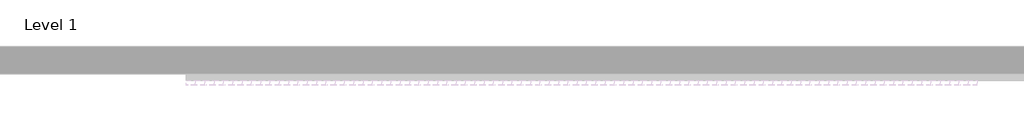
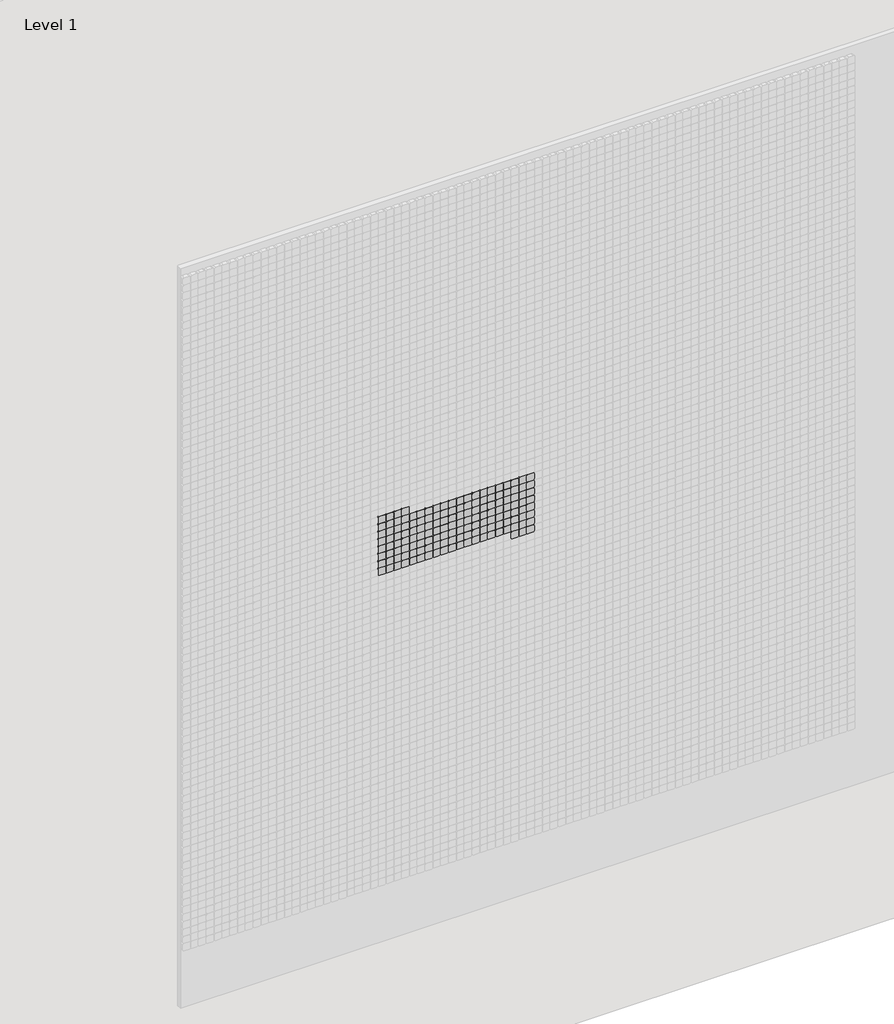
# One storey, part 27 of 71: 147 proxies.
"""IFC4 building model written with IfcOpenShell, lengths in millimetres."""

from ifc_helpers import new_model, si_unit, origin, place, context, project, spatial, transform, mapped, element, save
from components import generic_models_afde289c

model = new_model("IFC4")

# Units and contexts
model_context = context("Model", 3, world=origin())
ifc_project = project(units=[si_unit("LENGTHUNIT", "METRE", prefix="MILLI")], contexts=[model_context])

# Site, building, storey
site = spatial("IfcSite", under=ifc_project)
building = spatial("IfcBuilding", under=site)
storey = spatial("IfcBuildingStorey", under=building, Name="Level 1", Elevation=0.0)

# Proxies
placement = place(None, origin())
generic_models_shape = generic_models_afde289c(model_context)
element("IfcBuildingElementProxy", 1, Name="Pixel_M : Pixel_M", ObjectType="Pixel_M : Pixel_M", at=placement, inside=storey, context=model_context, shape_type="MappedRepresentation", body=[
    mapped(generic_models_shape, transform((6162.4280941, -75.0, 3866.3566215), x_axis=(1.0, 0.0, 0.0), y_axis=(0.0, 0.0, 1.0), z_axis=(0.0, -1.0, 0.0))),
])
element("IfcBuildingElementProxy", 2, Name="Pixel_M : Pixel_M", ObjectType="Pixel_M : Pixel_M", at=placement, inside=storey, context=model_context, shape_type="MappedRepresentation", body=[
    mapped(generic_models_shape, transform((6112.4280941, -75.0, 3866.3566215), x_axis=(1.0, 0.0, 0.0), y_axis=(0.0, 0.0, 1.0), z_axis=(0.0, -1.0, 0.0))),
])
element("IfcBuildingElementProxy", 3, Name="Pixel_M : Pixel_M", ObjectType="Pixel_M : Pixel_M", at=placement, inside=storey, context=model_context, shape_type="MappedRepresentation", body=[
    mapped(generic_models_shape, transform((6062.4280941, -75.0, 3866.3566215), x_axis=(1.0, 0.0, 0.0), y_axis=(0.0, 0.0, 1.0), z_axis=(0.0, -1.0, 0.0))),
])
element("IfcBuildingElementProxy", 4, Name="Pixel_M : Pixel_M", ObjectType="Pixel_M : Pixel_M", at=placement, inside=storey, context=model_context, shape_type="MappedRepresentation", body=[
    mapped(generic_models_shape, transform((6012.4280941, -75.0, 3866.3566215), x_axis=(1.0, 0.0, 0.0), y_axis=(0.0, 0.0, 1.0), z_axis=(0.0, -1.0, 0.0))),
])
element("IfcBuildingElementProxy", 5, Name="Pixel_M : Pixel_M", ObjectType="Pixel_M : Pixel_M", at=placement, inside=storey, context=model_context, shape_type="MappedRepresentation", body=[
    mapped(generic_models_shape, transform((6962.4280941, -75.0, 3816.3566215), x_axis=(1.0, 0.0, 0.0), y_axis=(0.0, 0.0, 1.0), z_axis=(0.0, -1.0, 0.0))),
])
element("IfcBuildingElementProxy", 6, Name="Pixel_M : Pixel_M", ObjectType="Pixel_M : Pixel_M", at=placement, inside=storey, context=model_context, shape_type="MappedRepresentation", body=[
    mapped(generic_models_shape, transform((6912.4280941, -75.0, 3816.3566215), x_axis=(1.0, 0.0, 0.0), y_axis=(0.0, 0.0, 1.0), z_axis=(0.0, -1.0, 0.0))),
])
element("IfcBuildingElementProxy", 7, Name="Pixel_M : Pixel_M", ObjectType="Pixel_M : Pixel_M", at=placement, inside=storey, context=model_context, shape_type="MappedRepresentation", body=[
    mapped(generic_models_shape, transform((6862.4280941, -75.0, 3816.3566215), x_axis=(1.0, 0.0, 0.0), y_axis=(0.0, 0.0, 1.0), z_axis=(0.0, -1.0, 0.0))),
])
element("IfcBuildingElementProxy", 8, Name="Pixel_M : Pixel_M", ObjectType="Pixel_M : Pixel_M", at=placement, inside=storey, context=model_context, shape_type="MappedRepresentation", body=[
    mapped(generic_models_shape, transform((6812.4280941, -75.0, 3816.3566215), x_axis=(1.0, 0.0, 0.0), y_axis=(0.0, 0.0, 1.0), z_axis=(0.0, -1.0, 0.0))),
])
element("IfcBuildingElementProxy", 9, Name="Pixel_M : Pixel_M", ObjectType="Pixel_M : Pixel_M", at=placement, inside=storey, context=model_context, shape_type="MappedRepresentation", body=[
    mapped(generic_models_shape, transform((6762.4280941, -75.0, 3816.3566215), x_axis=(1.0, 0.0, 0.0), y_axis=(0.0, 0.0, 1.0), z_axis=(0.0, -1.0, 0.0))),
])
element("IfcBuildingElementProxy", 10, Name="Pixel_M : Pixel_M", ObjectType="Pixel_M : Pixel_M", at=placement, inside=storey, context=model_context, shape_type="MappedRepresentation", body=[
    mapped(generic_models_shape, transform((6712.4280941, -75.0, 3816.3566215), x_axis=(1.0, 0.0, 0.0), y_axis=(0.0, 0.0, 1.0), z_axis=(0.0, -1.0, 0.0))),
])
element("IfcBuildingElementProxy", 11, Name="Pixel_M : Pixel_M", ObjectType="Pixel_M : Pixel_M", at=placement, inside=storey, context=model_context, shape_type="MappedRepresentation", body=[
    mapped(generic_models_shape, transform((6662.4280941, -75.0, 3816.3566215), x_axis=(1.0, 0.0, 0.0), y_axis=(0.0, 0.0, 1.0), z_axis=(0.0, -1.0, 0.0))),
])
element("IfcBuildingElementProxy", 12, Name="Pixel_M : Pixel_M", ObjectType="Pixel_M : Pixel_M", at=placement, inside=storey, context=model_context, shape_type="MappedRepresentation", body=[
    mapped(generic_models_shape, transform((6612.4280941, -75.0, 3816.3566215), x_axis=(1.0, 0.0, 0.0), y_axis=(0.0, 0.0, 1.0), z_axis=(0.0, -1.0, 0.0))),
])
element("IfcBuildingElementProxy", 13, Name="Pixel_M : Pixel_M", ObjectType="Pixel_M : Pixel_M", at=placement, inside=storey, context=model_context, shape_type="MappedRepresentation", body=[
    mapped(generic_models_shape, transform((6562.4280941, -75.0, 3816.3566215), x_axis=(1.0, 0.0, 0.0), y_axis=(0.0, 0.0, 1.0), z_axis=(0.0, -1.0, 0.0))),
])
element("IfcBuildingElementProxy", 14, Name="Pixel_M : Pixel_M", ObjectType="Pixel_M : Pixel_M", at=placement, inside=storey, context=model_context, shape_type="MappedRepresentation", body=[
    mapped(generic_models_shape, transform((6512.4280941, -75.0, 3816.3566215), x_axis=(1.0, 0.0, 0.0), y_axis=(0.0, 0.0, 1.0), z_axis=(0.0, -1.0, 0.0))),
])
element("IfcBuildingElementProxy", 15, Name="Pixel_M : Pixel_M", ObjectType="Pixel_M : Pixel_M", at=placement, inside=storey, context=model_context, shape_type="MappedRepresentation", body=[
    mapped(generic_models_shape, transform((6462.4280941, -75.0, 3816.3566215), x_axis=(1.0, 0.0, 0.0), y_axis=(0.0, 0.0, 1.0), z_axis=(0.0, -1.0, 0.0))),
])
element("IfcBuildingElementProxy", 16, Name="Pixel_M : Pixel_M", ObjectType="Pixel_M : Pixel_M", at=placement, inside=storey, context=model_context, shape_type="MappedRepresentation", body=[
    mapped(generic_models_shape, transform((6412.4280941, -75.0, 3816.3566215), x_axis=(1.0, 0.0, 0.0), y_axis=(0.0, 0.0, 1.0), z_axis=(0.0, -1.0, 0.0))),
])
element("IfcBuildingElementProxy", 17, Name="Pixel_M : Pixel_M", ObjectType="Pixel_M : Pixel_M", at=placement, inside=storey, context=model_context, shape_type="MappedRepresentation", body=[
    mapped(generic_models_shape, transform((6362.4280941, -75.0, 3816.3566215), x_axis=(1.0, 0.0, 0.0), y_axis=(0.0, 0.0, 1.0), z_axis=(0.0, -1.0, 0.0))),
])
element("IfcBuildingElementProxy", 18, Name="Pixel_M : Pixel_M", ObjectType="Pixel_M : Pixel_M", at=placement, inside=storey, context=model_context, shape_type="MappedRepresentation", body=[
    mapped(generic_models_shape, transform((6312.4280941, -75.0, 3816.3566215), x_axis=(1.0, 0.0, 0.0), y_axis=(0.0, 0.0, 1.0), z_axis=(0.0, -1.0, 0.0))),
])
element("IfcBuildingElementProxy", 19, Name="Pixel_M : Pixel_M", ObjectType="Pixel_M : Pixel_M", at=placement, inside=storey, context=model_context, shape_type="MappedRepresentation", body=[
    mapped(generic_models_shape, transform((6262.4280941, -75.0, 3816.3566215), x_axis=(1.0, 0.0, 0.0), y_axis=(0.0, 0.0, 1.0), z_axis=(0.0, -1.0, 0.0))),
])
element("IfcBuildingElementProxy", 20, Name="Pixel_M : Pixel_M", ObjectType="Pixel_M : Pixel_M", at=placement, inside=storey, context=model_context, shape_type="MappedRepresentation", body=[
    mapped(generic_models_shape, transform((6212.4280941, -75.0, 3816.3566215), x_axis=(1.0, 0.0, 0.0), y_axis=(0.0, 0.0, 1.0), z_axis=(0.0, -1.0, 0.0))),
])
element("IfcBuildingElementProxy", 21, Name="Pixel_M : Pixel_M", ObjectType="Pixel_M : Pixel_M", at=placement, inside=storey, context=model_context, shape_type="MappedRepresentation", body=[
    mapped(generic_models_shape, transform((6162.4280941, -75.0, 3816.3566215), x_axis=(1.0, 0.0, 0.0), y_axis=(0.0, 0.0, 1.0), z_axis=(0.0, -1.0, 0.0))),
])
element("IfcBuildingElementProxy", 22, Name="Pixel_M : Pixel_M", ObjectType="Pixel_M : Pixel_M", at=placement, inside=storey, context=model_context, shape_type="MappedRepresentation", body=[
    mapped(generic_models_shape, transform((6112.4280941, -75.0, 3816.3566215), x_axis=(1.0, 0.0, 0.0), y_axis=(0.0, 0.0, 1.0), z_axis=(0.0, -1.0, 0.0))),
])
element("IfcBuildingElementProxy", 23, Name="Pixel_M : Pixel_M", ObjectType="Pixel_M : Pixel_M", at=placement, inside=storey, context=model_context, shape_type="MappedRepresentation", body=[
    mapped(generic_models_shape, transform((6062.4280941, -75.0, 3816.3566215), x_axis=(1.0, 0.0, 0.0), y_axis=(0.0, 0.0, 1.0), z_axis=(0.0, -1.0, 0.0))),
])
element("IfcBuildingElementProxy", 24, Name="Pixel_M : Pixel_M", ObjectType="Pixel_M : Pixel_M", at=placement, inside=storey, context=model_context, shape_type="MappedRepresentation", body=[
    mapped(generic_models_shape, transform((6012.4280941, -75.0, 3816.3566215), x_axis=(1.0, 0.0, 0.0), y_axis=(0.0, 0.0, 1.0), z_axis=(0.0, -1.0, 0.0))),
])
element("IfcBuildingElementProxy", 25, Name="Pixel_M : Pixel_M", ObjectType="Pixel_M : Pixel_M", at=placement, inside=storey, context=model_context, shape_type="MappedRepresentation", body=[
    mapped(generic_models_shape, transform((6962.4280941, -75.0, 3766.3566215), x_axis=(1.0, 0.0, 0.0), y_axis=(0.0, 0.0, 1.0), z_axis=(0.0, -1.0, 0.0))),
])
element("IfcBuildingElementProxy", 26, Name="Pixel_M : Pixel_M", ObjectType="Pixel_M : Pixel_M", at=placement, inside=storey, context=model_context, shape_type="MappedRepresentation", body=[
    mapped(generic_models_shape, transform((6912.4280941, -75.0, 3766.3566215), x_axis=(1.0, 0.0, 0.0), y_axis=(0.0, 0.0, 1.0), z_axis=(0.0, -1.0, 0.0))),
])
element("IfcBuildingElementProxy", 27, Name="Pixel_M : Pixel_M", ObjectType="Pixel_M : Pixel_M", at=placement, inside=storey, context=model_context, shape_type="MappedRepresentation", body=[
    mapped(generic_models_shape, transform((6862.4280941, -75.0, 3766.3566215), x_axis=(1.0, 0.0, 0.0), y_axis=(0.0, 0.0, 1.0), z_axis=(0.0, -1.0, 0.0))),
])
element("IfcBuildingElementProxy", 28, Name="Pixel_M : Pixel_M", ObjectType="Pixel_M : Pixel_M", at=placement, inside=storey, context=model_context, shape_type="MappedRepresentation", body=[
    mapped(generic_models_shape, transform((6812.4280941, -75.0, 3766.3566215), x_axis=(1.0, 0.0, 0.0), y_axis=(0.0, 0.0, 1.0), z_axis=(0.0, -1.0, 0.0))),
])
element("IfcBuildingElementProxy", 29, Name="Pixel_M : Pixel_M", ObjectType="Pixel_M : Pixel_M", at=placement, inside=storey, context=model_context, shape_type="MappedRepresentation", body=[
    mapped(generic_models_shape, transform((6762.4280941, -75.0, 3766.3566215), x_axis=(1.0, 0.0, 0.0), y_axis=(0.0, 0.0, 1.0), z_axis=(0.0, -1.0, 0.0))),
])
element("IfcBuildingElementProxy", 30, Name="Pixel_M : Pixel_M", ObjectType="Pixel_M : Pixel_M", at=placement, inside=storey, context=model_context, shape_type="MappedRepresentation", body=[
    mapped(generic_models_shape, transform((6712.4280941, -75.0, 3766.3566215), x_axis=(1.0, 0.0, 0.0), y_axis=(0.0, 0.0, 1.0), z_axis=(0.0, -1.0, 0.0))),
])
element("IfcBuildingElementProxy", 31, Name="Pixel_M : Pixel_M", ObjectType="Pixel_M : Pixel_M", at=placement, inside=storey, context=model_context, shape_type="MappedRepresentation", body=[
    mapped(generic_models_shape, transform((6662.4280941, -75.0, 3766.3566215), x_axis=(1.0, 0.0, 0.0), y_axis=(0.0, 0.0, 1.0), z_axis=(0.0, -1.0, 0.0))),
])
element("IfcBuildingElementProxy", 32, Name="Pixel_M : Pixel_M", ObjectType="Pixel_M : Pixel_M", at=placement, inside=storey, context=model_context, shape_type="MappedRepresentation", body=[
    mapped(generic_models_shape, transform((6612.4280941, -75.0, 3766.3566215), x_axis=(1.0, 0.0, 0.0), y_axis=(0.0, 0.0, 1.0), z_axis=(0.0, -1.0, 0.0))),
])
element("IfcBuildingElementProxy", 33, Name="Pixel_M : Pixel_M", ObjectType="Pixel_M : Pixel_M", at=placement, inside=storey, context=model_context, shape_type="MappedRepresentation", body=[
    mapped(generic_models_shape, transform((6562.4280941, -75.0, 3766.3566215), x_axis=(1.0, 0.0, 0.0), y_axis=(0.0, 0.0, 1.0), z_axis=(0.0, -1.0, 0.0))),
])
element("IfcBuildingElementProxy", 34, Name="Pixel_M : Pixel_M", ObjectType="Pixel_M : Pixel_M", at=placement, inside=storey, context=model_context, shape_type="MappedRepresentation", body=[
    mapped(generic_models_shape, transform((6512.4280941, -75.0, 3766.3566215), x_axis=(1.0, 0.0, 0.0), y_axis=(0.0, 0.0, 1.0), z_axis=(0.0, -1.0, 0.0))),
])
element("IfcBuildingElementProxy", 35, Name="Pixel_M : Pixel_M", ObjectType="Pixel_M : Pixel_M", at=placement, inside=storey, context=model_context, shape_type="MappedRepresentation", body=[
    mapped(generic_models_shape, transform((6462.4280941, -75.0, 3766.3566215), x_axis=(1.0, 0.0, 0.0), y_axis=(0.0, 0.0, 1.0), z_axis=(0.0, -1.0, 0.0))),
])
element("IfcBuildingElementProxy", 36, Name="Pixel_M : Pixel_M", ObjectType="Pixel_M : Pixel_M", at=placement, inside=storey, context=model_context, shape_type="MappedRepresentation", body=[
    mapped(generic_models_shape, transform((6412.4280941, -75.0, 3766.3566215), x_axis=(1.0, 0.0, 0.0), y_axis=(0.0, 0.0, 1.0), z_axis=(0.0, -1.0, 0.0))),
])
element("IfcBuildingElementProxy", 37, Name="Pixel_M : Pixel_M", ObjectType="Pixel_M : Pixel_M", at=placement, inside=storey, context=model_context, shape_type="MappedRepresentation", body=[
    mapped(generic_models_shape, transform((6362.4280941, -75.0, 3766.3566215), x_axis=(1.0, 0.0, 0.0), y_axis=(0.0, 0.0, 1.0), z_axis=(0.0, -1.0, 0.0))),
])
element("IfcBuildingElementProxy", 38, Name="Pixel_M : Pixel_M", ObjectType="Pixel_M : Pixel_M", at=placement, inside=storey, context=model_context, shape_type="MappedRepresentation", body=[
    mapped(generic_models_shape, transform((6312.4280941, -75.0, 3766.3566215), x_axis=(1.0, 0.0, 0.0), y_axis=(0.0, 0.0, 1.0), z_axis=(0.0, -1.0, 0.0))),
])
element("IfcBuildingElementProxy", 39, Name="Pixel_M : Pixel_M", ObjectType="Pixel_M : Pixel_M", at=placement, inside=storey, context=model_context, shape_type="MappedRepresentation", body=[
    mapped(generic_models_shape, transform((6262.4280941, -75.0, 3766.3566215), x_axis=(1.0, 0.0, 0.0), y_axis=(0.0, 0.0, 1.0), z_axis=(0.0, -1.0, 0.0))),
])
element("IfcBuildingElementProxy", 40, Name="Pixel_M : Pixel_M", ObjectType="Pixel_M : Pixel_M", at=placement, inside=storey, context=model_context, shape_type="MappedRepresentation", body=[
    mapped(generic_models_shape, transform((6212.4280941, -75.0, 3766.3566215), x_axis=(1.0, 0.0, 0.0), y_axis=(0.0, 0.0, 1.0), z_axis=(0.0, -1.0, 0.0))),
])
element("IfcBuildingElementProxy", 41, Name="Pixel_M : Pixel_M", ObjectType="Pixel_M : Pixel_M", at=placement, inside=storey, context=model_context, shape_type="MappedRepresentation", body=[
    mapped(generic_models_shape, transform((6162.4280941, -75.0, 3766.3566215), x_axis=(1.0, 0.0, 0.0), y_axis=(0.0, 0.0, 1.0), z_axis=(0.0, -1.0, 0.0))),
])
element("IfcBuildingElementProxy", 42, Name="Pixel_M : Pixel_M", ObjectType="Pixel_M : Pixel_M", at=placement, inside=storey, context=model_context, shape_type="MappedRepresentation", body=[
    mapped(generic_models_shape, transform((6112.4280941, -75.0, 3766.3566215), x_axis=(1.0, 0.0, 0.0), y_axis=(0.0, 0.0, 1.0), z_axis=(0.0, -1.0, 0.0))),
])
element("IfcBuildingElementProxy", 43, Name="Pixel_M : Pixel_M", ObjectType="Pixel_M : Pixel_M", at=placement, inside=storey, context=model_context, shape_type="MappedRepresentation", body=[
    mapped(generic_models_shape, transform((6062.4280941, -75.0, 3766.3566215), x_axis=(1.0, 0.0, 0.0), y_axis=(0.0, 0.0, 1.0), z_axis=(0.0, -1.0, 0.0))),
])
element("IfcBuildingElementProxy", 44, Name="Pixel_M : Pixel_M", ObjectType="Pixel_M : Pixel_M", at=placement, inside=storey, context=model_context, shape_type="MappedRepresentation", body=[
    mapped(generic_models_shape, transform((6012.4280941, -75.0, 3766.3566215), x_axis=(1.0, 0.0, 0.0), y_axis=(0.0, 0.0, 1.0), z_axis=(0.0, -1.0, 0.0))),
])
element("IfcBuildingElementProxy", 45, Name="Pixel_M : Pixel_M", ObjectType="Pixel_M : Pixel_M", at=placement, inside=storey, context=model_context, shape_type="MappedRepresentation", body=[
    mapped(generic_models_shape, transform((6962.4280941, -75.0, 3716.3566215), x_axis=(1.0, 0.0, 0.0), y_axis=(0.0, 0.0, 1.0), z_axis=(0.0, -1.0, 0.0))),
])
element("IfcBuildingElementProxy", 46, Name="Pixel_M : Pixel_M", ObjectType="Pixel_M : Pixel_M", at=placement, inside=storey, context=model_context, shape_type="MappedRepresentation", body=[
    mapped(generic_models_shape, transform((6912.4280941, -75.0, 3716.3566215), x_axis=(1.0, 0.0, 0.0), y_axis=(0.0, 0.0, 1.0), z_axis=(0.0, -1.0, 0.0))),
])
element("IfcBuildingElementProxy", 47, Name="Pixel_M : Pixel_M", ObjectType="Pixel_M : Pixel_M", at=placement, inside=storey, context=model_context, shape_type="MappedRepresentation", body=[
    mapped(generic_models_shape, transform((6862.4280941, -75.0, 3716.3566215), x_axis=(1.0, 0.0, 0.0), y_axis=(0.0, 0.0, 1.0), z_axis=(0.0, -1.0, 0.0))),
])
element("IfcBuildingElementProxy", 48, Name="Pixel_M : Pixel_M", ObjectType="Pixel_M : Pixel_M", at=placement, inside=storey, context=model_context, shape_type="MappedRepresentation", body=[
    mapped(generic_models_shape, transform((6812.4280941, -75.0, 3716.3566215), x_axis=(1.0, 0.0, 0.0), y_axis=(0.0, 0.0, 1.0), z_axis=(0.0, -1.0, 0.0))),
])
element("IfcBuildingElementProxy", 49, Name="Pixel_M : Pixel_M", ObjectType="Pixel_M : Pixel_M", at=placement, inside=storey, context=model_context, shape_type="MappedRepresentation", body=[
    mapped(generic_models_shape, transform((6762.4280941, -75.0, 3716.3566215), x_axis=(1.0, 0.0, 0.0), y_axis=(0.0, 0.0, 1.0), z_axis=(0.0, -1.0, 0.0))),
])
element("IfcBuildingElementProxy", 50, Name="Pixel_M : Pixel_M", ObjectType="Pixel_M : Pixel_M", at=placement, inside=storey, context=model_context, shape_type="MappedRepresentation", body=[
    mapped(generic_models_shape, transform((6712.4280941, -75.0, 3716.3566215), x_axis=(1.0, 0.0, 0.0), y_axis=(0.0, 0.0, 1.0), z_axis=(0.0, -1.0, 0.0))),
])
element("IfcBuildingElementProxy", 51, Name="Pixel_M : Pixel_M", ObjectType="Pixel_M : Pixel_M", at=placement, inside=storey, context=model_context, shape_type="MappedRepresentation", body=[
    mapped(generic_models_shape, transform((6662.4280941, -75.0, 3716.3566215), x_axis=(1.0, 0.0, 0.0), y_axis=(0.0, 0.0, 1.0), z_axis=(0.0, -1.0, 0.0))),
])
element("IfcBuildingElementProxy", 52, Name="Pixel_M : Pixel_M", ObjectType="Pixel_M : Pixel_M", at=placement, inside=storey, context=model_context, shape_type="MappedRepresentation", body=[
    mapped(generic_models_shape, transform((6612.4280941, -75.0, 3716.3566215), x_axis=(1.0, 0.0, 0.0), y_axis=(0.0, 0.0, 1.0), z_axis=(0.0, -1.0, 0.0))),
])
element("IfcBuildingElementProxy", 53, Name="Pixel_M : Pixel_M", ObjectType="Pixel_M : Pixel_M", at=placement, inside=storey, context=model_context, shape_type="MappedRepresentation", body=[
    mapped(generic_models_shape, transform((6562.4280941, -75.0, 3716.3566215), x_axis=(1.0, 0.0, 0.0), y_axis=(0.0, 0.0, 1.0), z_axis=(0.0, -1.0, 0.0))),
])
element("IfcBuildingElementProxy", 54, Name="Pixel_M : Pixel_M", ObjectType="Pixel_M : Pixel_M", at=placement, inside=storey, context=model_context, shape_type="MappedRepresentation", body=[
    mapped(generic_models_shape, transform((6512.4280941, -75.0, 3716.3566215), x_axis=(1.0, 0.0, 0.0), y_axis=(0.0, 0.0, 1.0), z_axis=(0.0, -1.0, 0.0))),
])
element("IfcBuildingElementProxy", 55, Name="Pixel_M : Pixel_M", ObjectType="Pixel_M : Pixel_M", at=placement, inside=storey, context=model_context, shape_type="MappedRepresentation", body=[
    mapped(generic_models_shape, transform((6462.4280941, -75.0, 3716.3566215), x_axis=(1.0, 0.0, 0.0), y_axis=(0.0, 0.0, 1.0), z_axis=(0.0, -1.0, 0.0))),
])
element("IfcBuildingElementProxy", 56, Name="Pixel_M : Pixel_M", ObjectType="Pixel_M : Pixel_M", at=placement, inside=storey, context=model_context, shape_type="MappedRepresentation", body=[
    mapped(generic_models_shape, transform((6412.4280941, -75.0, 3716.3566215), x_axis=(1.0, 0.0, 0.0), y_axis=(0.0, 0.0, 1.0), z_axis=(0.0, -1.0, 0.0))),
])
element("IfcBuildingElementProxy", 57, Name="Pixel_M : Pixel_M", ObjectType="Pixel_M : Pixel_M", at=placement, inside=storey, context=model_context, shape_type="MappedRepresentation", body=[
    mapped(generic_models_shape, transform((6362.4280941, -75.0, 3716.3566215), x_axis=(1.0, 0.0, 0.0), y_axis=(0.0, 0.0, 1.0), z_axis=(0.0, -1.0, 0.0))),
])
element("IfcBuildingElementProxy", 58, Name="Pixel_M : Pixel_M", ObjectType="Pixel_M : Pixel_M", at=placement, inside=storey, context=model_context, shape_type="MappedRepresentation", body=[
    mapped(generic_models_shape, transform((6312.4280941, -75.0, 3716.3566215), x_axis=(1.0, 0.0, 0.0), y_axis=(0.0, 0.0, 1.0), z_axis=(0.0, -1.0, 0.0))),
])
element("IfcBuildingElementProxy", 59, Name="Pixel_M : Pixel_M", ObjectType="Pixel_M : Pixel_M", at=placement, inside=storey, context=model_context, shape_type="MappedRepresentation", body=[
    mapped(generic_models_shape, transform((6262.4280941, -75.0, 3716.3566215), x_axis=(1.0, 0.0, 0.0), y_axis=(0.0, 0.0, 1.0), z_axis=(0.0, -1.0, 0.0))),
])
element("IfcBuildingElementProxy", 60, Name="Pixel_M : Pixel_M", ObjectType="Pixel_M : Pixel_M", at=placement, inside=storey, context=model_context, shape_type="MappedRepresentation", body=[
    mapped(generic_models_shape, transform((6212.4280941, -75.0, 3716.3566215), x_axis=(1.0, 0.0, 0.0), y_axis=(0.0, 0.0, 1.0), z_axis=(0.0, -1.0, 0.0))),
])
element("IfcBuildingElementProxy", 61, Name="Pixel_M : Pixel_M", ObjectType="Pixel_M : Pixel_M", at=placement, inside=storey, context=model_context, shape_type="MappedRepresentation", body=[
    mapped(generic_models_shape, transform((6162.4280941, -75.0, 3716.3566215), x_axis=(1.0, 0.0, 0.0), y_axis=(0.0, 0.0, 1.0), z_axis=(0.0, -1.0, 0.0))),
])
element("IfcBuildingElementProxy", 62, Name="Pixel_M : Pixel_M", ObjectType="Pixel_M : Pixel_M", at=placement, inside=storey, context=model_context, shape_type="MappedRepresentation", body=[
    mapped(generic_models_shape, transform((6112.4280941, -75.0, 3716.3566215), x_axis=(1.0, 0.0, 0.0), y_axis=(0.0, 0.0, 1.0), z_axis=(0.0, -1.0, 0.0))),
])
element("IfcBuildingElementProxy", 63, Name="Pixel_M : Pixel_M", ObjectType="Pixel_M : Pixel_M", at=placement, inside=storey, context=model_context, shape_type="MappedRepresentation", body=[
    mapped(generic_models_shape, transform((6062.4280941, -75.0, 3716.3566215), x_axis=(1.0, 0.0, 0.0), y_axis=(0.0, 0.0, 1.0), z_axis=(0.0, -1.0, 0.0))),
])
element("IfcBuildingElementProxy", 64, Name="Pixel_M : Pixel_M", ObjectType="Pixel_M : Pixel_M", at=placement, inside=storey, context=model_context, shape_type="MappedRepresentation", body=[
    mapped(generic_models_shape, transform((6012.4280941, -75.0, 3716.3566215), x_axis=(1.0, 0.0, 0.0), y_axis=(0.0, 0.0, 1.0), z_axis=(0.0, -1.0, 0.0))),
])
element("IfcBuildingElementProxy", 65, Name="Pixel_M : Pixel_M", ObjectType="Pixel_M : Pixel_M", at=placement, inside=storey, context=model_context, shape_type="MappedRepresentation", body=[
    mapped(generic_models_shape, transform((6962.4280941, -75.0, 3666.3566215), x_axis=(1.0, 0.0, 0.0), y_axis=(0.0, 0.0, 1.0), z_axis=(0.0, -1.0, 0.0))),
])
element("IfcBuildingElementProxy", 66, Name="Pixel_M : Pixel_M", ObjectType="Pixel_M : Pixel_M", at=placement, inside=storey, context=model_context, shape_type="MappedRepresentation", body=[
    mapped(generic_models_shape, transform((6912.4280941, -75.0, 3666.3566215), x_axis=(1.0, 0.0, 0.0), y_axis=(0.0, 0.0, 1.0), z_axis=(0.0, -1.0, 0.0))),
])
element("IfcBuildingElementProxy", 67, Name="Pixel_M : Pixel_M", ObjectType="Pixel_M : Pixel_M", at=placement, inside=storey, context=model_context, shape_type="MappedRepresentation", body=[
    mapped(generic_models_shape, transform((6862.4280941, -75.0, 3666.3566215), x_axis=(1.0, 0.0, 0.0), y_axis=(0.0, 0.0, 1.0), z_axis=(0.0, -1.0, 0.0))),
])
element("IfcBuildingElementProxy", 68, Name="Pixel_M : Pixel_M", ObjectType="Pixel_M : Pixel_M", at=placement, inside=storey, context=model_context, shape_type="MappedRepresentation", body=[
    mapped(generic_models_shape, transform((6812.4280941, -75.0, 3666.3566215), x_axis=(1.0, 0.0, 0.0), y_axis=(0.0, 0.0, 1.0), z_axis=(0.0, -1.0, 0.0))),
])
element("IfcBuildingElementProxy", 69, Name="Pixel_M : Pixel_M", ObjectType="Pixel_M : Pixel_M", at=placement, inside=storey, context=model_context, shape_type="MappedRepresentation", body=[
    mapped(generic_models_shape, transform((6762.4280941, -75.0, 3666.3566215), x_axis=(1.0, 0.0, 0.0), y_axis=(0.0, 0.0, 1.0), z_axis=(0.0, -1.0, 0.0))),
])
element("IfcBuildingElementProxy", 70, Name="Pixel_M : Pixel_M", ObjectType="Pixel_M : Pixel_M", at=placement, inside=storey, context=model_context, shape_type="MappedRepresentation", body=[
    mapped(generic_models_shape, transform((6712.4280941, -75.0, 3666.3566215), x_axis=(1.0, 0.0, 0.0), y_axis=(0.0, 0.0, 1.0), z_axis=(0.0, -1.0, 0.0))),
])
element("IfcBuildingElementProxy", 71, Name="Pixel_M : Pixel_M", ObjectType="Pixel_M : Pixel_M", at=placement, inside=storey, context=model_context, shape_type="MappedRepresentation", body=[
    mapped(generic_models_shape, transform((6662.4280941, -75.0, 3666.3566215), x_axis=(1.0, 0.0, 0.0), y_axis=(0.0, 0.0, 1.0), z_axis=(0.0, -1.0, 0.0))),
])
element("IfcBuildingElementProxy", 72, Name="Pixel_M : Pixel_M", ObjectType="Pixel_M : Pixel_M", at=placement, inside=storey, context=model_context, shape_type="MappedRepresentation", body=[
    mapped(generic_models_shape, transform((6612.4280941, -75.0, 3666.3566215), x_axis=(1.0, 0.0, 0.0), y_axis=(0.0, 0.0, 1.0), z_axis=(0.0, -1.0, 0.0))),
])
element("IfcBuildingElementProxy", 73, Name="Pixel_M : Pixel_M", ObjectType="Pixel_M : Pixel_M", at=placement, inside=storey, context=model_context, shape_type="MappedRepresentation", body=[
    mapped(generic_models_shape, transform((6562.4280941, -75.0, 3666.3566215), x_axis=(1.0, 0.0, 0.0), y_axis=(0.0, 0.0, 1.0), z_axis=(0.0, -1.0, 0.0))),
])
element("IfcBuildingElementProxy", 74, Name="Pixel_M : Pixel_M", ObjectType="Pixel_M : Pixel_M", at=placement, inside=storey, context=model_context, shape_type="MappedRepresentation", body=[
    mapped(generic_models_shape, transform((6512.4280941, -75.0, 3666.3566215), x_axis=(1.0, 0.0, 0.0), y_axis=(0.0, 0.0, 1.0), z_axis=(0.0, -1.0, 0.0))),
])
element("IfcBuildingElementProxy", 75, Name="Pixel_M : Pixel_M", ObjectType="Pixel_M : Pixel_M", at=placement, inside=storey, context=model_context, shape_type="MappedRepresentation", body=[
    mapped(generic_models_shape, transform((6462.4280941, -75.0, 3666.3566215), x_axis=(1.0, 0.0, 0.0), y_axis=(0.0, 0.0, 1.0), z_axis=(0.0, -1.0, 0.0))),
])
element("IfcBuildingElementProxy", 76, Name="Pixel_M : Pixel_M", ObjectType="Pixel_M : Pixel_M", at=placement, inside=storey, context=model_context, shape_type="MappedRepresentation", body=[
    mapped(generic_models_shape, transform((6412.4280941, -75.0, 3666.3566215), x_axis=(1.0, 0.0, 0.0), y_axis=(0.0, 0.0, 1.0), z_axis=(0.0, -1.0, 0.0))),
])
element("IfcBuildingElementProxy", 77, Name="Pixel_M : Pixel_M", ObjectType="Pixel_M : Pixel_M", at=placement, inside=storey, context=model_context, shape_type="MappedRepresentation", body=[
    mapped(generic_models_shape, transform((6362.4280941, -75.0, 3666.3566215), x_axis=(1.0, 0.0, 0.0), y_axis=(0.0, 0.0, 1.0), z_axis=(0.0, -1.0, 0.0))),
])
element("IfcBuildingElementProxy", 78, Name="Pixel_M : Pixel_M", ObjectType="Pixel_M : Pixel_M", at=placement, inside=storey, context=model_context, shape_type="MappedRepresentation", body=[
    mapped(generic_models_shape, transform((6312.4280941, -75.0, 3666.3566215), x_axis=(1.0, 0.0, 0.0), y_axis=(0.0, 0.0, 1.0), z_axis=(0.0, -1.0, 0.0))),
])
element("IfcBuildingElementProxy", 79, Name="Pixel_M : Pixel_M", ObjectType="Pixel_M : Pixel_M", at=placement, inside=storey, context=model_context, shape_type="MappedRepresentation", body=[
    mapped(generic_models_shape, transform((6262.4280941, -75.0, 3666.3566215), x_axis=(1.0, 0.0, 0.0), y_axis=(0.0, 0.0, 1.0), z_axis=(0.0, -1.0, 0.0))),
])
element("IfcBuildingElementProxy", 80, Name="Pixel_M : Pixel_M", ObjectType="Pixel_M : Pixel_M", at=placement, inside=storey, context=model_context, shape_type="MappedRepresentation", body=[
    mapped(generic_models_shape, transform((6212.4280941, -75.0, 3666.3566215), x_axis=(1.0, 0.0, 0.0), y_axis=(0.0, 0.0, 1.0), z_axis=(0.0, -1.0, 0.0))),
])
element("IfcBuildingElementProxy", 81, Name="Pixel_M : Pixel_M", ObjectType="Pixel_M : Pixel_M", at=placement, inside=storey, context=model_context, shape_type="MappedRepresentation", body=[
    mapped(generic_models_shape, transform((6162.4280941, -75.0, 3666.3566215), x_axis=(1.0, 0.0, 0.0), y_axis=(0.0, 0.0, 1.0), z_axis=(0.0, -1.0, 0.0))),
])
element("IfcBuildingElementProxy", 82, Name="Pixel_M : Pixel_M", ObjectType="Pixel_M : Pixel_M", at=placement, inside=storey, context=model_context, shape_type="MappedRepresentation", body=[
    mapped(generic_models_shape, transform((6112.4280941, -75.0, 3666.3566215), x_axis=(1.0, 0.0, 0.0), y_axis=(0.0, 0.0, 1.0), z_axis=(0.0, -1.0, 0.0))),
])
element("IfcBuildingElementProxy", 83, Name="Pixel_M : Pixel_M", ObjectType="Pixel_M : Pixel_M", at=placement, inside=storey, context=model_context, shape_type="MappedRepresentation", body=[
    mapped(generic_models_shape, transform((6062.4280941, -75.0, 3666.3566215), x_axis=(1.0, 0.0, 0.0), y_axis=(0.0, 0.0, 1.0), z_axis=(0.0, -1.0, 0.0))),
])
element("IfcBuildingElementProxy", 84, Name="Pixel_M : Pixel_M", ObjectType="Pixel_M : Pixel_M", at=placement, inside=storey, context=model_context, shape_type="MappedRepresentation", body=[
    mapped(generic_models_shape, transform((6012.4280941, -75.0, 3666.3566215), x_axis=(1.0, 0.0, 0.0), y_axis=(0.0, 0.0, 1.0), z_axis=(0.0, -1.0, 0.0))),
])
element("IfcBuildingElementProxy", 85, Name="Pixel_M : Pixel_M", ObjectType="Pixel_M : Pixel_M", at=placement, inside=storey, context=model_context, shape_type="MappedRepresentation", body=[
    mapped(generic_models_shape, transform((6962.4280941, -75.0, 3616.3566215), x_axis=(1.0, 0.0, 0.0), y_axis=(0.0, 0.0, 1.0), z_axis=(0.0, -1.0, 0.0))),
])
element("IfcBuildingElementProxy", 86, Name="Pixel_M : Pixel_M", ObjectType="Pixel_M : Pixel_M", at=placement, inside=storey, context=model_context, shape_type="MappedRepresentation", body=[
    mapped(generic_models_shape, transform((6912.4280941, -75.0, 3616.3566215), x_axis=(1.0, 0.0, 0.0), y_axis=(0.0, 0.0, 1.0), z_axis=(0.0, -1.0, 0.0))),
])
element("IfcBuildingElementProxy", 87, Name="Pixel_M : Pixel_M", ObjectType="Pixel_M : Pixel_M", at=placement, inside=storey, context=model_context, shape_type="MappedRepresentation", body=[
    mapped(generic_models_shape, transform((6862.4280941, -75.0, 3616.3566215), x_axis=(1.0, 0.0, 0.0), y_axis=(0.0, 0.0, 1.0), z_axis=(0.0, -1.0, 0.0))),
])
element("IfcBuildingElementProxy", 88, Name="Pixel_M : Pixel_M", ObjectType="Pixel_M : Pixel_M", at=placement, inside=storey, context=model_context, shape_type="MappedRepresentation", body=[
    mapped(generic_models_shape, transform((6812.4280941, -75.0, 3616.3566215), x_axis=(1.0, 0.0, 0.0), y_axis=(0.0, 0.0, 1.0), z_axis=(0.0, -1.0, 0.0))),
])
element("IfcBuildingElementProxy", 89, Name="Pixel_M : Pixel_M", ObjectType="Pixel_M : Pixel_M", at=placement, inside=storey, context=model_context, shape_type="MappedRepresentation", body=[
    mapped(generic_models_shape, transform((6762.4280941, -75.0, 3616.3566215), x_axis=(1.0, 0.0, 0.0), y_axis=(0.0, 0.0, 1.0), z_axis=(0.0, -1.0, 0.0))),
])
element("IfcBuildingElementProxy", 90, Name="Pixel_M : Pixel_M", ObjectType="Pixel_M : Pixel_M", at=placement, inside=storey, context=model_context, shape_type="MappedRepresentation", body=[
    mapped(generic_models_shape, transform((6712.4280941, -75.0, 3616.3566215), x_axis=(1.0, 0.0, 0.0), y_axis=(0.0, 0.0, 1.0), z_axis=(0.0, -1.0, 0.0))),
])
element("IfcBuildingElementProxy", 91, Name="Pixel_M : Pixel_M", ObjectType="Pixel_M : Pixel_M", at=placement, inside=storey, context=model_context, shape_type="MappedRepresentation", body=[
    mapped(generic_models_shape, transform((6662.4280941, -75.0, 3616.3566215), x_axis=(1.0, 0.0, 0.0), y_axis=(0.0, 0.0, 1.0), z_axis=(0.0, -1.0, 0.0))),
])
element("IfcBuildingElementProxy", 92, Name="Pixel_M : Pixel_M", ObjectType="Pixel_M : Pixel_M", at=placement, inside=storey, context=model_context, shape_type="MappedRepresentation", body=[
    mapped(generic_models_shape, transform((6612.4280941, -75.0, 3616.3566215), x_axis=(1.0, 0.0, 0.0), y_axis=(0.0, 0.0, 1.0), z_axis=(0.0, -1.0, 0.0))),
])
element("IfcBuildingElementProxy", 93, Name="Pixel_M : Pixel_M", ObjectType="Pixel_M : Pixel_M", at=placement, inside=storey, context=model_context, shape_type="MappedRepresentation", body=[
    mapped(generic_models_shape, transform((6562.4280941, -75.0, 3616.3566215), x_axis=(1.0, 0.0, 0.0), y_axis=(0.0, 0.0, 1.0), z_axis=(0.0, -1.0, 0.0))),
])
element("IfcBuildingElementProxy", 94, Name="Pixel_M : Pixel_M", ObjectType="Pixel_M : Pixel_M", at=placement, inside=storey, context=model_context, shape_type="MappedRepresentation", body=[
    mapped(generic_models_shape, transform((6512.4280941, -75.0, 3616.3566215), x_axis=(1.0, 0.0, 0.0), y_axis=(0.0, 0.0, 1.0), z_axis=(0.0, -1.0, 0.0))),
])
element("IfcBuildingElementProxy", 95, Name="Pixel_M : Pixel_M", ObjectType="Pixel_M : Pixel_M", at=placement, inside=storey, context=model_context, shape_type="MappedRepresentation", body=[
    mapped(generic_models_shape, transform((6462.4280941, -75.0, 3616.3566215), x_axis=(1.0, 0.0, 0.0), y_axis=(0.0, 0.0, 1.0), z_axis=(0.0, -1.0, 0.0))),
])
element("IfcBuildingElementProxy", 96, Name="Pixel_M : Pixel_M", ObjectType="Pixel_M : Pixel_M", at=placement, inside=storey, context=model_context, shape_type="MappedRepresentation", body=[
    mapped(generic_models_shape, transform((6412.4280941, -75.0, 3616.3566215), x_axis=(1.0, 0.0, 0.0), y_axis=(0.0, 0.0, 1.0), z_axis=(0.0, -1.0, 0.0))),
])
element("IfcBuildingElementProxy", 97, Name="Pixel_M : Pixel_M", ObjectType="Pixel_M : Pixel_M", at=placement, inside=storey, context=model_context, shape_type="MappedRepresentation", body=[
    mapped(generic_models_shape, transform((6362.4280941, -75.0, 3616.3566215), x_axis=(1.0, 0.0, 0.0), y_axis=(0.0, 0.0, 1.0), z_axis=(0.0, -1.0, 0.0))),
])
element("IfcBuildingElementProxy", 98, Name="Pixel_M : Pixel_M", ObjectType="Pixel_M : Pixel_M", at=placement, inside=storey, context=model_context, shape_type="MappedRepresentation", body=[
    mapped(generic_models_shape, transform((6312.4280941, -75.0, 3616.3566215), x_axis=(1.0, 0.0, 0.0), y_axis=(0.0, 0.0, 1.0), z_axis=(0.0, -1.0, 0.0))),
])
element("IfcBuildingElementProxy", 99, Name="Pixel_M : Pixel_M", ObjectType="Pixel_M : Pixel_M", at=placement, inside=storey, context=model_context, shape_type="MappedRepresentation", body=[
    mapped(generic_models_shape, transform((6262.4280941, -75.0, 3616.3566215), x_axis=(1.0, 0.0, 0.0), y_axis=(0.0, 0.0, 1.0), z_axis=(0.0, -1.0, 0.0))),
])
element("IfcBuildingElementProxy", 100, Name="Pixel_M : Pixel_M", ObjectType="Pixel_M : Pixel_M", at=placement, inside=storey, context=model_context, shape_type="MappedRepresentation", body=[
    mapped(generic_models_shape, transform((6212.4280941, -75.0, 3616.3566215), x_axis=(1.0, 0.0, 0.0), y_axis=(0.0, 0.0, 1.0), z_axis=(0.0, -1.0, 0.0))),
])
element("IfcBuildingElementProxy", 101, Name="Pixel_M : Pixel_M", ObjectType="Pixel_M : Pixel_M", at=placement, inside=storey, context=model_context, shape_type="MappedRepresentation", body=[
    mapped(generic_models_shape, transform((6162.4280941, -75.0, 3616.3566215), x_axis=(1.0, 0.0, 0.0), y_axis=(0.0, 0.0, 1.0), z_axis=(0.0, -1.0, 0.0))),
])
element("IfcBuildingElementProxy", 102, Name="Pixel_M : Pixel_M", ObjectType="Pixel_M : Pixel_M", at=placement, inside=storey, context=model_context, shape_type="MappedRepresentation", body=[
    mapped(generic_models_shape, transform((6112.4280941, -75.0, 3616.3566215), x_axis=(1.0, 0.0, 0.0), y_axis=(0.0, 0.0, 1.0), z_axis=(0.0, -1.0, 0.0))),
])
element("IfcBuildingElementProxy", 103, Name="Pixel_M : Pixel_M", ObjectType="Pixel_M : Pixel_M", at=placement, inside=storey, context=model_context, shape_type="MappedRepresentation", body=[
    mapped(generic_models_shape, transform((6062.4280941, -75.0, 3616.3566215), x_axis=(1.0, 0.0, 0.0), y_axis=(0.0, 0.0, 1.0), z_axis=(0.0, -1.0, 0.0))),
])
element("IfcBuildingElementProxy", 104, Name="Pixel_M : Pixel_M", ObjectType="Pixel_M : Pixel_M", at=placement, inside=storey, context=model_context, shape_type="MappedRepresentation", body=[
    mapped(generic_models_shape, transform((6012.4280941, -75.0, 3616.3566215), x_axis=(1.0, 0.0, 0.0), y_axis=(0.0, 0.0, 1.0), z_axis=(0.0, -1.0, 0.0))),
])
element("IfcBuildingElementProxy", 105, Name="Pixel_M : Pixel_M", ObjectType="Pixel_M : Pixel_M", at=placement, inside=storey, context=model_context, shape_type="MappedRepresentation", body=[
    mapped(generic_models_shape, transform((6962.4280941, -75.0, 3566.3566215), x_axis=(1.0, 0.0, 0.0), y_axis=(0.0, 0.0, 1.0), z_axis=(0.0, -1.0, 0.0))),
])
element("IfcBuildingElementProxy", 106, Name="Pixel_M : Pixel_M", ObjectType="Pixel_M : Pixel_M", at=placement, inside=storey, context=model_context, shape_type="MappedRepresentation", body=[
    mapped(generic_models_shape, transform((6912.4280941, -75.0, 3566.3566215), x_axis=(1.0, 0.0, 0.0), y_axis=(0.0, 0.0, 1.0), z_axis=(0.0, -1.0, 0.0))),
])
element("IfcBuildingElementProxy", 107, Name="Pixel_M : Pixel_M", ObjectType="Pixel_M : Pixel_M", at=placement, inside=storey, context=model_context, shape_type="MappedRepresentation", body=[
    mapped(generic_models_shape, transform((6862.4280941, -75.0, 3566.3566215), x_axis=(1.0, 0.0, 0.0), y_axis=(0.0, 0.0, 1.0), z_axis=(0.0, -1.0, 0.0))),
])
element("IfcBuildingElementProxy", 108, Name="Pixel_M : Pixel_M", ObjectType="Pixel_M : Pixel_M", at=placement, inside=storey, context=model_context, shape_type="MappedRepresentation", body=[
    mapped(generic_models_shape, transform((6812.4280941, -75.0, 3566.3566215), x_axis=(1.0, 0.0, 0.0), y_axis=(0.0, 0.0, 1.0), z_axis=(0.0, -1.0, 0.0))),
])
element("IfcBuildingElementProxy", 109, Name="Pixel_M : Pixel_M", ObjectType="Pixel_M : Pixel_M", at=placement, inside=storey, context=model_context, shape_type="MappedRepresentation", body=[
    mapped(generic_models_shape, transform((6762.4280941, -75.0, 3566.3566215), x_axis=(1.0, 0.0, 0.0), y_axis=(0.0, 0.0, 1.0), z_axis=(0.0, -1.0, 0.0))),
])
element("IfcBuildingElementProxy", 110, Name="Pixel_M : Pixel_M", ObjectType="Pixel_M : Pixel_M", at=placement, inside=storey, context=model_context, shape_type="MappedRepresentation", body=[
    mapped(generic_models_shape, transform((6712.4280941, -75.0, 3566.3566215), x_axis=(1.0, 0.0, 0.0), y_axis=(0.0, 0.0, 1.0), z_axis=(0.0, -1.0, 0.0))),
])
element("IfcBuildingElementProxy", 111, Name="Pixel_M : Pixel_M", ObjectType="Pixel_M : Pixel_M", at=placement, inside=storey, context=model_context, shape_type="MappedRepresentation", body=[
    mapped(generic_models_shape, transform((6662.4280941, -75.0, 3566.3566215), x_axis=(1.0, 0.0, 0.0), y_axis=(0.0, 0.0, 1.0), z_axis=(0.0, -1.0, 0.0))),
])
element("IfcBuildingElementProxy", 112, Name="Pixel_M : Pixel_M", ObjectType="Pixel_M : Pixel_M", at=placement, inside=storey, context=model_context, shape_type="MappedRepresentation", body=[
    mapped(generic_models_shape, transform((6612.4280941, -75.0, 3566.3566215), x_axis=(1.0, 0.0, 0.0), y_axis=(0.0, 0.0, 1.0), z_axis=(0.0, -1.0, 0.0))),
])
element("IfcBuildingElementProxy", 113, Name="Pixel_M : Pixel_M", ObjectType="Pixel_M : Pixel_M", at=placement, inside=storey, context=model_context, shape_type="MappedRepresentation", body=[
    mapped(generic_models_shape, transform((6562.4280941, -75.0, 3566.3566215), x_axis=(1.0, 0.0, 0.0), y_axis=(0.0, 0.0, 1.0), z_axis=(0.0, -1.0, 0.0))),
])
element("IfcBuildingElementProxy", 114, Name="Pixel_M : Pixel_M", ObjectType="Pixel_M : Pixel_M", at=placement, inside=storey, context=model_context, shape_type="MappedRepresentation", body=[
    mapped(generic_models_shape, transform((6512.4280941, -75.0, 3566.3566215), x_axis=(1.0, 0.0, 0.0), y_axis=(0.0, 0.0, 1.0), z_axis=(0.0, -1.0, 0.0))),
])
element("IfcBuildingElementProxy", 115, Name="Pixel_M : Pixel_M", ObjectType="Pixel_M : Pixel_M", at=placement, inside=storey, context=model_context, shape_type="MappedRepresentation", body=[
    mapped(generic_models_shape, transform((6462.4280941, -75.0, 3566.3566215), x_axis=(1.0, 0.0, 0.0), y_axis=(0.0, 0.0, 1.0), z_axis=(0.0, -1.0, 0.0))),
])
element("IfcBuildingElementProxy", 116, Name="Pixel_M : Pixel_M", ObjectType="Pixel_M : Pixel_M", at=placement, inside=storey, context=model_context, shape_type="MappedRepresentation", body=[
    mapped(generic_models_shape, transform((6412.4280941, -75.0, 3566.3566215), x_axis=(1.0, 0.0, 0.0), y_axis=(0.0, 0.0, 1.0), z_axis=(0.0, -1.0, 0.0))),
])
element("IfcBuildingElementProxy", 117, Name="Pixel_M : Pixel_M", ObjectType="Pixel_M : Pixel_M", at=placement, inside=storey, context=model_context, shape_type="MappedRepresentation", body=[
    mapped(generic_models_shape, transform((6362.4280941, -75.0, 3566.3566215), x_axis=(1.0, 0.0, 0.0), y_axis=(0.0, 0.0, 1.0), z_axis=(0.0, -1.0, 0.0))),
])
element("IfcBuildingElementProxy", 118, Name="Pixel_M : Pixel_M", ObjectType="Pixel_M : Pixel_M", at=placement, inside=storey, context=model_context, shape_type="MappedRepresentation", body=[
    mapped(generic_models_shape, transform((6312.4280941, -75.0, 3566.3566215), x_axis=(1.0, 0.0, 0.0), y_axis=(0.0, 0.0, 1.0), z_axis=(0.0, -1.0, 0.0))),
])
element("IfcBuildingElementProxy", 119, Name="Pixel_M : Pixel_M", ObjectType="Pixel_M : Pixel_M", at=placement, inside=storey, context=model_context, shape_type="MappedRepresentation", body=[
    mapped(generic_models_shape, transform((6262.4280941, -75.0, 3566.3566215), x_axis=(1.0, 0.0, 0.0), y_axis=(0.0, 0.0, 1.0), z_axis=(0.0, -1.0, 0.0))),
])
element("IfcBuildingElementProxy", 120, Name="Pixel_M : Pixel_M", ObjectType="Pixel_M : Pixel_M", at=placement, inside=storey, context=model_context, shape_type="MappedRepresentation", body=[
    mapped(generic_models_shape, transform((6212.4280941, -75.0, 3566.3566215), x_axis=(1.0, 0.0, 0.0), y_axis=(0.0, 0.0, 1.0), z_axis=(0.0, -1.0, 0.0))),
])
element("IfcBuildingElementProxy", 121, Name="Pixel_M : Pixel_M", ObjectType="Pixel_M : Pixel_M", at=placement, inside=storey, context=model_context, shape_type="MappedRepresentation", body=[
    mapped(generic_models_shape, transform((6162.4280941, -75.0, 3566.3566215), x_axis=(1.0, 0.0, 0.0), y_axis=(0.0, 0.0, 1.0), z_axis=(0.0, -1.0, 0.0))),
])
element("IfcBuildingElementProxy", 122, Name="Pixel_M : Pixel_M", ObjectType="Pixel_M : Pixel_M", at=placement, inside=storey, context=model_context, shape_type="MappedRepresentation", body=[
    mapped(generic_models_shape, transform((6112.4280941, -75.0, 3566.3566215), x_axis=(1.0, 0.0, 0.0), y_axis=(0.0, 0.0, 1.0), z_axis=(0.0, -1.0, 0.0))),
])
element("IfcBuildingElementProxy", 123, Name="Pixel_M : Pixel_M", ObjectType="Pixel_M : Pixel_M", at=placement, inside=storey, context=model_context, shape_type="MappedRepresentation", body=[
    mapped(generic_models_shape, transform((6062.4280941, -75.0, 3566.3566215), x_axis=(1.0, 0.0, 0.0), y_axis=(0.0, 0.0, 1.0), z_axis=(0.0, -1.0, 0.0))),
])
element("IfcBuildingElementProxy", 124, Name="Pixel_M : Pixel_M", ObjectType="Pixel_M : Pixel_M", at=placement, inside=storey, context=model_context, shape_type="MappedRepresentation", body=[
    mapped(generic_models_shape, transform((6012.4280941, -75.0, 3566.3566215), x_axis=(1.0, 0.0, 0.0), y_axis=(0.0, 0.0, 1.0), z_axis=(0.0, -1.0, 0.0))),
])
element("IfcBuildingElementProxy", 125, Name="Pixel_M : Pixel_M", ObjectType="Pixel_M : Pixel_M", at=placement, inside=storey, context=model_context, shape_type="MappedRepresentation", body=[
    mapped(generic_models_shape, transform((6962.4280941, -75.0, 3516.3566215), x_axis=(1.0, 0.0, 0.0), y_axis=(0.0, 0.0, 1.0), z_axis=(0.0, -1.0, 0.0))),
])
element("IfcBuildingElementProxy", 126, Name="Pixel_M : Pixel_M", ObjectType="Pixel_M : Pixel_M", at=placement, inside=storey, context=model_context, shape_type="MappedRepresentation", body=[
    mapped(generic_models_shape, transform((6912.4280941, -75.0, 3516.3566215), x_axis=(1.0, 0.0, 0.0), y_axis=(0.0, 0.0, 1.0), z_axis=(0.0, -1.0, 0.0))),
])
element("IfcBuildingElementProxy", 127, Name="Pixel_M : Pixel_M", ObjectType="Pixel_M : Pixel_M", at=placement, inside=storey, context=model_context, shape_type="MappedRepresentation", body=[
    mapped(generic_models_shape, transform((6862.4280941, -75.0, 3516.3566215), x_axis=(1.0, 0.0, 0.0), y_axis=(0.0, 0.0, 1.0), z_axis=(0.0, -1.0, 0.0))),
])
element("IfcBuildingElementProxy", 128, Name="Pixel_M : Pixel_M", ObjectType="Pixel_M : Pixel_M", at=placement, inside=storey, context=model_context, shape_type="MappedRepresentation", body=[
    mapped(generic_models_shape, transform((6812.4280941, -75.0, 3516.3566215), x_axis=(1.0, 0.0, 0.0), y_axis=(0.0, 0.0, 1.0), z_axis=(0.0, -1.0, 0.0))),
])
element("IfcBuildingElementProxy", 129, Name="Pixel_M : Pixel_M", ObjectType="Pixel_M : Pixel_M", at=placement, inside=storey, context=model_context, shape_type="MappedRepresentation", body=[
    mapped(generic_models_shape, transform((6762.4280941, -75.0, 3516.3566215), x_axis=(1.0, 0.0, 0.0), y_axis=(0.0, 0.0, 1.0), z_axis=(0.0, -1.0, 0.0))),
])
element("IfcBuildingElementProxy", 130, Name="Pixel_M : Pixel_M", ObjectType="Pixel_M : Pixel_M", at=placement, inside=storey, context=model_context, shape_type="MappedRepresentation", body=[
    mapped(generic_models_shape, transform((6712.4280941, -75.0, 3516.3566215), x_axis=(1.0, 0.0, 0.0), y_axis=(0.0, 0.0, 1.0), z_axis=(0.0, -1.0, 0.0))),
])
element("IfcBuildingElementProxy", 131, Name="Pixel_M : Pixel_M", ObjectType="Pixel_M : Pixel_M", at=placement, inside=storey, context=model_context, shape_type="MappedRepresentation", body=[
    mapped(generic_models_shape, transform((6662.4280941, -75.0, 3516.3566215), x_axis=(1.0, 0.0, 0.0), y_axis=(0.0, 0.0, 1.0), z_axis=(0.0, -1.0, 0.0))),
])
element("IfcBuildingElementProxy", 132, Name="Pixel_M : Pixel_M", ObjectType="Pixel_M : Pixel_M", at=placement, inside=storey, context=model_context, shape_type="MappedRepresentation", body=[
    mapped(generic_models_shape, transform((6612.4280941, -75.0, 3516.3566215), x_axis=(1.0, 0.0, 0.0), y_axis=(0.0, 0.0, 1.0), z_axis=(0.0, -1.0, 0.0))),
])
element("IfcBuildingElementProxy", 133, Name="Pixel_M : Pixel_M", ObjectType="Pixel_M : Pixel_M", at=placement, inside=storey, context=model_context, shape_type="MappedRepresentation", body=[
    mapped(generic_models_shape, transform((6562.4280941, -75.0, 3516.3566215), x_axis=(1.0, 0.0, 0.0), y_axis=(0.0, 0.0, 1.0), z_axis=(0.0, -1.0, 0.0))),
])
element("IfcBuildingElementProxy", 134, Name="Pixel_M : Pixel_M", ObjectType="Pixel_M : Pixel_M", at=placement, inside=storey, context=model_context, shape_type="MappedRepresentation", body=[
    mapped(generic_models_shape, transform((6512.4280941, -75.0, 3516.3566215), x_axis=(1.0, 0.0, 0.0), y_axis=(0.0, 0.0, 1.0), z_axis=(0.0, -1.0, 0.0))),
])
element("IfcBuildingElementProxy", 135, Name="Pixel_M : Pixel_M", ObjectType="Pixel_M : Pixel_M", at=placement, inside=storey, context=model_context, shape_type="MappedRepresentation", body=[
    mapped(generic_models_shape, transform((6462.4280941, -75.0, 3516.3566215), x_axis=(1.0, 0.0, 0.0), y_axis=(0.0, 0.0, 1.0), z_axis=(0.0, -1.0, 0.0))),
])
element("IfcBuildingElementProxy", 136, Name="Pixel_M : Pixel_M", ObjectType="Pixel_M : Pixel_M", at=placement, inside=storey, context=model_context, shape_type="MappedRepresentation", body=[
    mapped(generic_models_shape, transform((6412.4280941, -75.0, 3516.3566215), x_axis=(1.0, 0.0, 0.0), y_axis=(0.0, 0.0, 1.0), z_axis=(0.0, -1.0, 0.0))),
])
element("IfcBuildingElementProxy", 137, Name="Pixel_M : Pixel_M", ObjectType="Pixel_M : Pixel_M", at=placement, inside=storey, context=model_context, shape_type="MappedRepresentation", body=[
    mapped(generic_models_shape, transform((6362.4280941, -75.0, 3516.3566215), x_axis=(1.0, 0.0, 0.0), y_axis=(0.0, 0.0, 1.0), z_axis=(0.0, -1.0, 0.0))),
])
element("IfcBuildingElementProxy", 138, Name="Pixel_M : Pixel_M", ObjectType="Pixel_M : Pixel_M", at=placement, inside=storey, context=model_context, shape_type="MappedRepresentation", body=[
    mapped(generic_models_shape, transform((6312.4280941, -75.0, 3516.3566215), x_axis=(1.0, 0.0, 0.0), y_axis=(0.0, 0.0, 1.0), z_axis=(0.0, -1.0, 0.0))),
])
element("IfcBuildingElementProxy", 139, Name="Pixel_M : Pixel_M", ObjectType="Pixel_M : Pixel_M", at=placement, inside=storey, context=model_context, shape_type="MappedRepresentation", body=[
    mapped(generic_models_shape, transform((6262.4280941, -75.0, 3516.3566215), x_axis=(1.0, 0.0, 0.0), y_axis=(0.0, 0.0, 1.0), z_axis=(0.0, -1.0, 0.0))),
])
element("IfcBuildingElementProxy", 140, Name="Pixel_M : Pixel_M", ObjectType="Pixel_M : Pixel_M", at=placement, inside=storey, context=model_context, shape_type="MappedRepresentation", body=[
    mapped(generic_models_shape, transform((6212.4280941, -75.0, 3516.3566215), x_axis=(1.0, 0.0, 0.0), y_axis=(0.0, 0.0, 1.0), z_axis=(0.0, -1.0, 0.0))),
])
element("IfcBuildingElementProxy", 141, Name="Pixel_M : Pixel_M", ObjectType="Pixel_M : Pixel_M", at=placement, inside=storey, context=model_context, shape_type="MappedRepresentation", body=[
    mapped(generic_models_shape, transform((6162.4280941, -75.0, 3516.3566215), x_axis=(1.0, 0.0, 0.0), y_axis=(0.0, 0.0, 1.0), z_axis=(0.0, -1.0, 0.0))),
])
element("IfcBuildingElementProxy", 142, Name="Pixel_M : Pixel_M", ObjectType="Pixel_M : Pixel_M", at=placement, inside=storey, context=model_context, shape_type="MappedRepresentation", body=[
    mapped(generic_models_shape, transform((6112.4280941, -75.0, 3516.3566215), x_axis=(1.0, 0.0, 0.0), y_axis=(0.0, 0.0, 1.0), z_axis=(0.0, -1.0, 0.0))),
])
element("IfcBuildingElementProxy", 143, Name="Pixel_M : Pixel_M", ObjectType="Pixel_M : Pixel_M", at=placement, inside=storey, context=model_context, shape_type="MappedRepresentation", body=[
    mapped(generic_models_shape, transform((6062.4280941, -75.0, 3516.3566215), x_axis=(1.0, 0.0, 0.0), y_axis=(0.0, 0.0, 1.0), z_axis=(0.0, -1.0, 0.0))),
])
element("IfcBuildingElementProxy", 144, Name="Pixel_M : Pixel_M", ObjectType="Pixel_M : Pixel_M", at=placement, inside=storey, context=model_context, shape_type="MappedRepresentation", body=[
    mapped(generic_models_shape, transform((6012.4280941, -75.0, 3516.3566215), x_axis=(1.0, 0.0, 0.0), y_axis=(0.0, 0.0, 1.0), z_axis=(0.0, -1.0, 0.0))),
])
element("IfcBuildingElementProxy", 145, Name="Pixel_M : Pixel_M", ObjectType="Pixel_M : Pixel_M", at=placement, inside=storey, context=model_context, shape_type="MappedRepresentation", body=[
    mapped(generic_models_shape, transform((6962.4280941, -75.0, 3466.3566215), x_axis=(1.0, 0.0, 0.0), y_axis=(0.0, 0.0, 1.0), z_axis=(0.0, -1.0, 0.0))),
])
element("IfcBuildingElementProxy", 146, Name="Pixel_M : Pixel_M", ObjectType="Pixel_M : Pixel_M", at=placement, inside=storey, context=model_context, shape_type="MappedRepresentation", body=[
    mapped(generic_models_shape, transform((6912.4280941, -75.0, 3466.3566215), x_axis=(1.0, 0.0, 0.0), y_axis=(0.0, 0.0, 1.0), z_axis=(0.0, -1.0, 0.0))),
])
element("IfcBuildingElementProxy", 147, Name="Pixel_M : Pixel_M", ObjectType="Pixel_M : Pixel_M", at=placement, inside=storey, context=model_context, shape_type="MappedRepresentation", body=[
    mapped(generic_models_shape, transform((6862.4280941, -75.0, 3466.3566215), x_axis=(1.0, 0.0, 0.0), y_axis=(0.0, 0.0, 1.0), z_axis=(0.0, -1.0, 0.0))),
])

save(model, "model.ifc")
